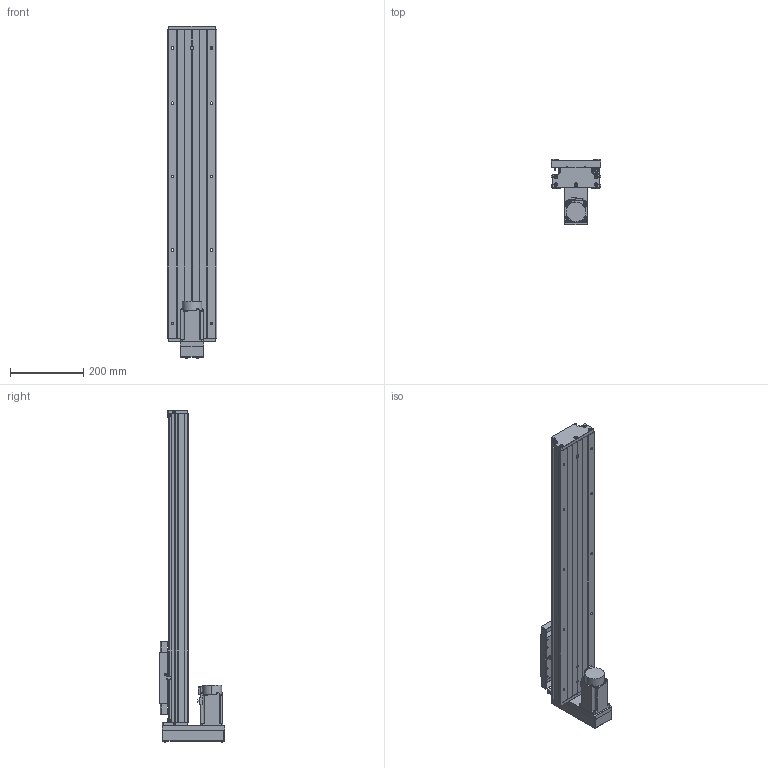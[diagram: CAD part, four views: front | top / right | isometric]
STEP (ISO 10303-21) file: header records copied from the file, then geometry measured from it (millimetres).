
FILE_DESCRIPTION (( 'STEP AP203' ), '1' );
FILE_NAME ('GTH14-600-BM-M40-C4.step', '2023-06-30T08:46:45', ( '微软用户' ), ( '微软中国' ), 'SwSTEP 2.0', 'SolidWorks 2020', '' );
FILE_SCHEMA (( 'CONFIG_CONTROL_DESIGN' ));
Length unit declared in the file: millimetre
Products named in the file (19): GBT 70.2-M3¡Á5_M3¡Á6; CTHA60-017; す晦芛蹟隊 M3℅5; GTH14-001_600; EE_SX911P_R; HG-KN43J-S100; GTH14-002_GTH14-002; CTHA60-016; GBT 70.2-M4¡Á35_M4¡Á35; GTH14-004; GBT 70.1-M3℅5; GTH14-015-2_CTHA86-015-2; GTH14-005; GBT77-2000 M3×3; GTH14-033; GB1155-6X6; GTH14-031; GTH14-600-BM-M40-C4; GBT70.1 M5℅16
Assembly tree (58 placements, depth 2):
  GTH14-600-BM-M40-C4
    GTH14-001_600
    GTH14-002_GTH14-002
    GTH14-004
    GTH14-005
    GB1155-6X6  x2
    GBT70.1 M5℅16  x10
    CTHA60-017  x3
    EE_SX911P_R  x3
    CTHA60-016  x2
    GBT 70.1-M3℅5  x6
    GBT77-2000 M3×3  x6
    GTH14-031
    GBT 70.2-M3¡Á5_M3¡Á6  x8
    す晦芛蹟隊 M3℅5  x6
    HG-KN43J-S100
    GBT 70.2-M4¡Á35_M4¡Á35  x4
    GTH14-015-2_CTHA86-015-2
    GTH14-033
Bounding box: 135 x 177.5 x 904.2 mm (x, y, z)
Volume: 5045546.5 mm3; surface area: 857501.4 mm2
Topology: 61 solids, 61 shells, 2453 faces, 5833 edges, 3594 vertices
Faces by surface type: plane 1307, cylinder 656, cone 314, torus 124, sphere 32, bspline 20
Entity records: 44158 total; most frequent: CARTESIAN_POINT 9857, DIRECTION 6489, ORIENTED_EDGE 6356, EDGE_CURVE 3178, AXIS2_PLACEMENT_3D 2218, VECTOR 2053, LINE 2053, VERTEX_POINT 2012
